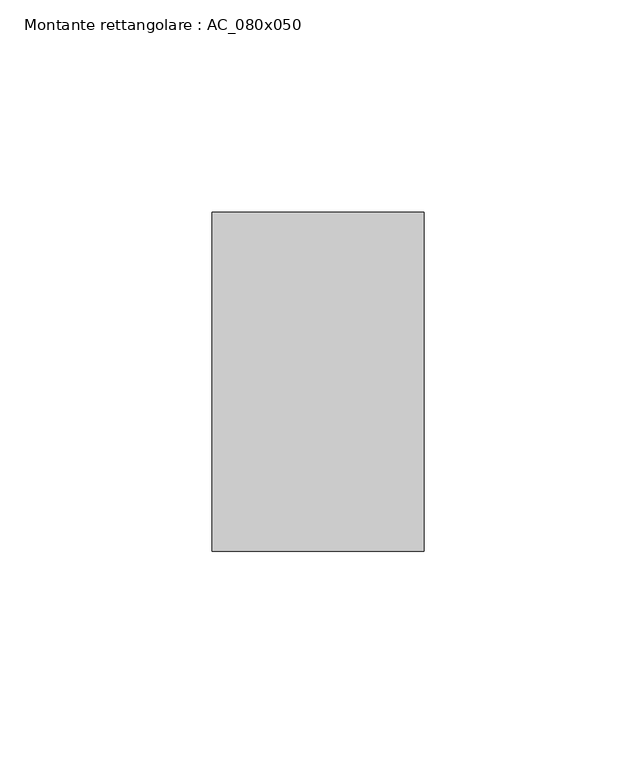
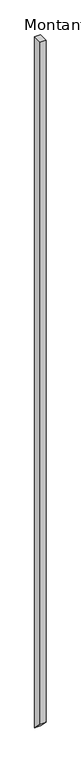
"""IFC4 building model written with IfcOpenShell, lengths in millimetres: member geometry, Montante rettangolare : AC_080x050."""

from ifc_helpers import new_model, si_unit, frame, origin, place, context, project, spatial, polyline, outline, extrude, source, transform, mapped, element, save


def montante_rettangolare_ac_080x050_6f641e4c(model_context):
    return source(origin(), model_context, "Body", "SweptSolid", [
        extrude(outline(polyline([(-40.0, 0.0), (40.0, 0.0), (40.0, -6145.0), (-40.0, -6065.0), (-40.0, 0.0)])), frame((-50.0, 0.0, 0.0), z_axis=(1.0, 0.0, 0.0), x_axis=(0.0, 1.0, 0.0)), (0.0, 0.0, 1.0), 50.0),
    ])


if __name__ == "__main__":
    model = new_model("IFC4")
    model_context = context("Model", 3, world=origin())
    ifc_project = project(units=[si_unit("LENGTHUNIT", "METRE", prefix="MILLI")], contexts=[model_context])
    site = spatial("IfcSite", under=ifc_project)
    building = spatial("IfcBuilding", under=site)
    placement = place(None, origin())
    montante_rettangolare_ac_080x050_shape = montante_rettangolare_ac_080x050_6f641e4c(model_context)
    element("IfcMember", 1, ObjectType="Montante rettangolare : AC_080x050", at=placement, inside=building, context=model_context, shape_type="MappedRepresentation", body=[
        mapped(montante_rettangolare_ac_080x050_shape, transform((0.0, 0.0, 0.0), x_axis=(1.0, 0.0, 0.0), y_axis=(0.0, 1.0, 0.0), z_axis=(0.0, 0.0, 1.0))),
    ])
    save(model, "model.ifc")
